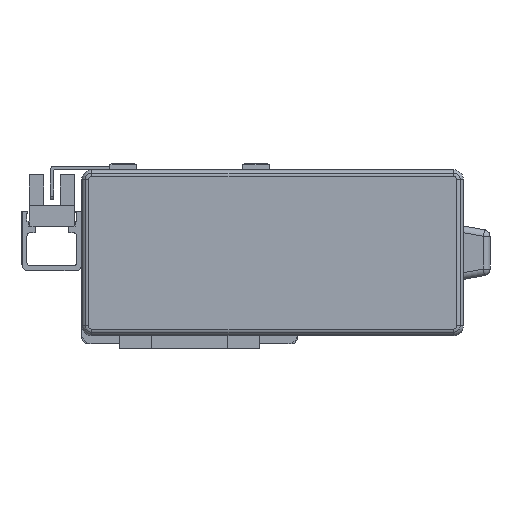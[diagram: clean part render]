
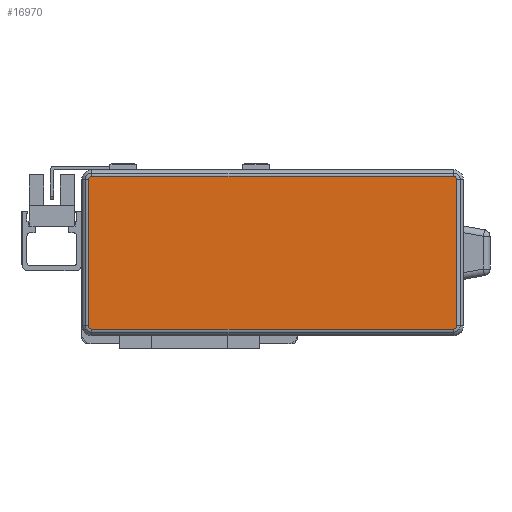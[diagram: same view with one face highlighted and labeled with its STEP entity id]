
A CAD part, left-side view. The second image highlights one B-rep face of the part: STEP entity #16970.
In plain terms, the highlighted planar face has unit normal (-1, 0, 0) as drawn and (0, 0, 1) by its records, which use the part's own axes.
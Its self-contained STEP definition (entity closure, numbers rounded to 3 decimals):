
#192 = DIRECTION ( 'NONE',  ( 1., 0., 0. ) ) ;
#327 = ORIENTED_EDGE ( 'NONE', *, *, #1517, .T. ) ;
#876 = VERTEX_POINT ( 'NONE', #22930 ) ;
#1294 = AXIS2_PLACEMENT_3D ( 'NONE', #25843, #12925, #28027 ) ;
#1517 = EDGE_CURVE ( 'NONE', #19673, #876, #25806, .T. ) ;
#1779 = VECTOR ( 'NONE', #4695, 1000. ) ;
#1996 = ORIENTED_EDGE ( 'NONE', *, *, #27484, .T. ) ;
#2383 = PLANE ( 'NONE',  #18981 ) ;
#2508 = CARTESIAN_POINT ( 'NONE',  ( -55.5, -22., 40. ) ) ;
#2529 = CARTESIAN_POINT ( 'NONE',  ( -55.5, 0., 40. ) ) ;
#2549 = DIRECTION ( 'NONE',  ( 0., 0., 1. ) ) ;
#2764 = CARTESIAN_POINT ( 'NONE',  ( -54.5, 23., 40. ) ) ;
#3614 = VERTEX_POINT ( 'NONE', #9360 ) ;
#4695 = DIRECTION ( 'NONE',  ( 0., -1., 0. ) ) ;
#4793 = ORIENTED_EDGE ( 'NONE', *, *, #13828, .T. ) ;
#4797 = CARTESIAN_POINT ( 'NONE',  ( 54.5, 22., 40. ) ) ;
#5880 = VECTOR ( 'NONE', #15457, 1000. ) ;
#6749 = CARTESIAN_POINT ( 'NONE',  ( 0., 0., 40. ) ) ;
#6984 = DIRECTION ( 'NONE',  ( -1., 0., 0. ) ) ;
#7020 = EDGE_CURVE ( 'NONE', #26727, #14189, #23144, .T. ) ;
#7325 = CIRCLE ( 'NONE', #1294, 1. ) ;
#7669 = EDGE_CURVE ( 'NONE', #3614, #19673, #19062, .T. ) ;
#7823 = ORIENTED_EDGE ( 'NONE', *, *, #14613, .T. ) ;
#8284 = CARTESIAN_POINT ( 'NONE',  ( 54.5, 23., 40. ) ) ;
#8909 = DIRECTION ( 'NONE',  ( -1., 0., 0. ) ) ;
#9360 = CARTESIAN_POINT ( 'NONE',  ( -55.5, 22., 40. ) ) ;
#11028 = ORIENTED_EDGE ( 'NONE', *, *, #22181, .T. ) ;
#11151 = VERTEX_POINT ( 'NONE', #8284 ) ;
#11377 = LINE ( 'NONE', #16842, #27928 ) ;
#11454 = CARTESIAN_POINT ( 'NONE',  ( 54.5, -23., 40. ) ) ;
#11919 = AXIS2_PLACEMENT_3D ( 'NONE', #4797, #19947, #6984 ) ;
#12216 = DIRECTION ( 'NONE',  ( 0., 0., 1. ) ) ;
#12283 = CIRCLE ( 'NONE', #11919, 1. ) ;
#12925 = DIRECTION ( 'NONE',  ( 0., 0., 1. ) ) ;
#12934 = VERTEX_POINT ( 'NONE', #11454 ) ;
#13828 = EDGE_CURVE ( 'NONE', #17065, #3614, #7325, .T. ) ;
#14044 = CARTESIAN_POINT ( 'NONE',  ( 55.5, 22., 40. ) ) ;
#14189 = VERTEX_POINT ( 'NONE', #14044 ) ;
#14237 = ORIENTED_EDGE ( 'NONE', *, *, #21384, .T. ) ;
#14613 = EDGE_CURVE ( 'NONE', #12934, #26727, #17777, .T. ) ;
#14656 = DIRECTION ( 'NONE',  ( -1., 0., 0. ) ) ;
#15415 = VECTOR ( 'NONE', #192, 1000. ) ;
#15457 = DIRECTION ( 'NONE',  ( 0., 1., 0. ) ) ;
#15552 = CARTESIAN_POINT ( 'NONE',  ( 54.5, -22., 40. ) ) ;
#16760 = LINE ( 'NONE', #26114, #15415 ) ;
#16842 = CARTESIAN_POINT ( 'NONE',  ( 0., 23., 40. ) ) ;
#16970 = ADVANCED_FACE ( 'NONE', ( #23391 ), #2383, .F. ) ;
#17065 = VERTEX_POINT ( 'NONE', #2764 ) ;
#17696 = DIRECTION ( 'NONE',  ( -1., 0., 0. ) ) ;
#17777 = CIRCLE ( 'NONE', #19089, 1. ) ;
#18606 = AXIS2_PLACEMENT_3D ( 'NONE', #25138, #12216, #27320 ) ;
#18981 = AXIS2_PLACEMENT_3D ( 'NONE', #6749, #21868, #8909 ) ;
#19062 = LINE ( 'NONE', #2529, #1779 ) ;
#19089 = AXIS2_PLACEMENT_3D ( 'NONE', #15552, #2549, #17696 ) ;
#19408 = CARTESIAN_POINT ( 'NONE',  ( 55.5, -22., 40. ) ) ;
#19673 = VERTEX_POINT ( 'NONE', #2508 ) ;
#19947 = DIRECTION ( 'NONE',  ( 0., 0., 1. ) ) ;
#20127 = ORIENTED_EDGE ( 'NONE', *, *, #7669, .T. ) ;
#21384 = EDGE_CURVE ( 'NONE', #11151, #17065, #11377, .T. ) ;
#21868 = DIRECTION ( 'NONE',  ( 0., 0., -1. ) ) ;
#22181 = EDGE_CURVE ( 'NONE', #876, #12934, #16760, .T. ) ;
#22930 = CARTESIAN_POINT ( 'NONE',  ( -54.5, -23., 40. ) ) ;
#23144 = LINE ( 'NONE', #26096, #5880 ) ;
#23391 = FACE_OUTER_BOUND ( 'NONE', #27478, .T. ) ;
#25138 = CARTESIAN_POINT ( 'NONE',  ( -54.5, -22., 40. ) ) ;
#25806 = CIRCLE ( 'NONE', #18606, 1. ) ;
#25843 = CARTESIAN_POINT ( 'NONE',  ( -54.5, 22., 40. ) ) ;
#26096 = CARTESIAN_POINT ( 'NONE',  ( 55.5, 0., 40. ) ) ;
#26114 = CARTESIAN_POINT ( 'NONE',  ( 0., -23., 40. ) ) ;
#26644 = ORIENTED_EDGE ( 'NONE', *, *, #7020, .T. ) ;
#26727 = VERTEX_POINT ( 'NONE', #19408 ) ;
#27320 = DIRECTION ( 'NONE',  ( -1., 0., 0. ) ) ;
#27478 = EDGE_LOOP ( 'NONE', ( #11028, #7823, #26644, #1996, #14237, #4793, #20127, #327 ) ) ;
#27484 = EDGE_CURVE ( 'NONE', #14189, #11151, #12283, .T. ) ;
#27928 = VECTOR ( 'NONE', #14656, 1000. ) ;
#28027 = DIRECTION ( 'NONE',  ( -1., 0., 0. ) ) ;
